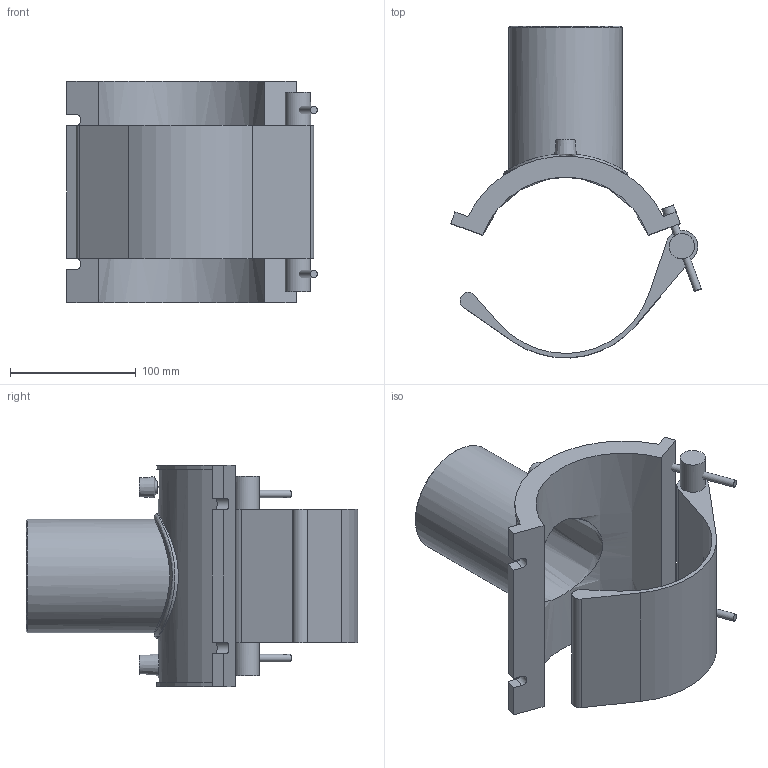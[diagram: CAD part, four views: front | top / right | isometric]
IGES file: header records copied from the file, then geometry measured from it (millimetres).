
Global section: file name: 495804140090.ipt; native system: Autodesk Inventor 2015; preprocessor: unknown; author: KIM; date: 20180426.120848; units: millimetre
Bounding box: 198.94 x 263.41 x 176 mm (x, y, z)
Volume: 968301.9 mm3; surface area: 206398 mm2
Topology: 5 solids, 5 shells, 65 faces, 135 edges, 91 vertices
Faces by surface type: plane 37, cylinder 17, revolution 7, cone 3, bspline 1
Full cylindrical faces by diameter (mm): 4 x2, 5.88 x2, 9.8 x2, 20.16 x2, 90 x1, 99 x1
